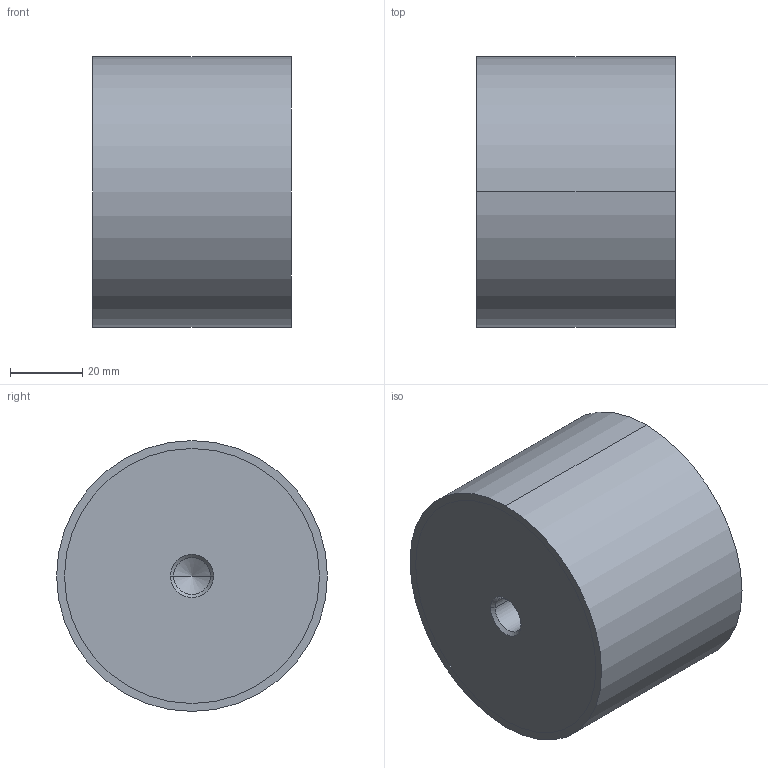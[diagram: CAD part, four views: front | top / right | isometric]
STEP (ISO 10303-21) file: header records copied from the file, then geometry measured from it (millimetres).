
FILE_DESCRIPTION (( 'STEP AP214' ), '1' );
FILE_NAME ('451-75-55-M12-EE-70.step', '2020-03-05T09:15:24', ( '' ), ( '' ), 'SwSTEP 2.0', 'SolidWorks 2019', '' );
FILE_SCHEMA (( 'AUTOMOTIVE_DESIGN' ));
Length unit declared in the file: millimetre
Products named in the file (1): 451-75-55-M12-EE-70
Bounding box: 55 x 75 x 75 mm (x, y, z)
Volume: 240751 mm3; surface area: 22563.5 mm2
Topology: 1 solids, 1 shells, 22 faces, 46 edges, 26 vertices
Faces by surface type: cylinder 10, cone 8, plane 4
Entity records: 684 total; most frequent: DIRECTION 112, CARTESIAN_POINT 91, ORIENTED_EDGE 84, AXIS2_PLACEMENT_3D 47, EDGE_CURVE 42, VERTEX_POINT 26, EDGE_LOOP 26, CIRCLE 24
